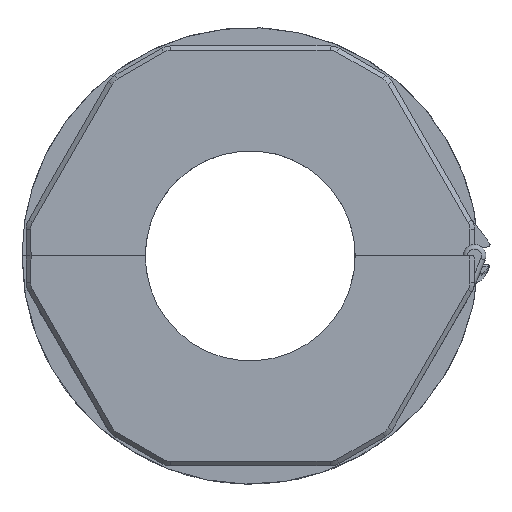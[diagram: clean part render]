
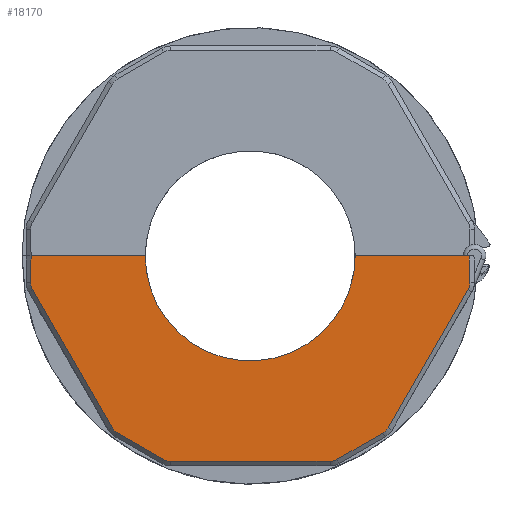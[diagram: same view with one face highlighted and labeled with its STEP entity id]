
A CAD part, left-side view. The second image highlights one B-rep face of the part: STEP entity #18170.
In plain terms, the highlighted planar face has unit normal (-1, 0, -0.009) as drawn and (1, -0.009, 0) by its records, which use the part's own axes.
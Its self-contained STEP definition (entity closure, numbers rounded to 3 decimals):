
#489=CIRCLE('',#19532,1.5);
#491=CIRCLE('',#19535,1.5);
#493=CIRCLE('',#19538,1.5);
#495=CIRCLE('',#19541,1.5);
#497=CIRCLE('',#19544,1.5);
#499=CIRCLE('',#19547,1.5);
#1055=PLANE('',#19548);
#2120=FACE_OUTER_BOUND('',#3142,.T.);
#3142=EDGE_LOOP('',(#16572,#16573,#16574,#16575,#16576,#16577,#16578,#16579,
#16580,#16581,#16582,#16583,#16584,#16585,#16586,#16587));
#5041=LINE('',#32210,#6854);
#5174=LINE('',#32550,#6987);
#5188=LINE('',#32617,#7001);
#5189=LINE('',#32620,#7002);
#5195=LINE('',#32650,#7008);
#5199=LINE('',#32677,#7012);
#5203=LINE('',#32704,#7016);
#5207=LINE('',#32731,#7020);
#5211=LINE('',#32758,#7024);
#6854=VECTOR('',#23355,10.);
#6987=VECTOR('',#23650,10.);
#7001=VECTOR('',#23706,10.);
#7002=VECTOR('',#23709,10.);
#7008=VECTOR('',#23721,10.);
#7012=VECTOR('',#23731,10.);
#7016=VECTOR('',#23741,10.);
#7020=VECTOR('',#23751,10.);
#7024=VECTOR('',#23761,10.);
#7393=ELLIPSE('',#19507,11.5,11.5);
#8885=VERTEX_POINT('',#32207);
#8886=VERTEX_POINT('',#32209);
#8995=VERTEX_POINT('',#32517);
#9009=VERTEX_POINT('',#32548);
#9029=VERTEX_POINT('',#32615);
#9030=VERTEX_POINT('',#32619);
#9032=VERTEX_POINT('',#32640);
#9034=VERTEX_POINT('',#32646);
#9036=VERTEX_POINT('',#32667);
#9038=VERTEX_POINT('',#32673);
#9040=VERTEX_POINT('',#32694);
#9042=VERTEX_POINT('',#32700);
#9044=VERTEX_POINT('',#32721);
#9046=VERTEX_POINT('',#32727);
#9048=VERTEX_POINT('',#32748);
#9050=VERTEX_POINT('',#32754);
#11370=EDGE_CURVE('',#8886,#8885,#5041,.T.);
#11525=EDGE_CURVE('',#8885,#8995,#7393,.T.);
#11541=EDGE_CURVE('',#8995,#9009,#5174,.T.);
#11570=EDGE_CURVE('',#9029,#9009,#5188,.T.);
#11571=EDGE_CURVE('',#8886,#9030,#5189,.T.);
#11576=EDGE_CURVE('',#9030,#9032,#489,.T.);
#11579=EDGE_CURVE('',#9032,#9034,#5195,.T.);
#11582=EDGE_CURVE('',#9034,#9036,#491,.T.);
#11585=EDGE_CURVE('',#9036,#9038,#5199,.T.);
#11588=EDGE_CURVE('',#9038,#9040,#493,.T.);
#11591=EDGE_CURVE('',#9040,#9042,#5203,.T.);
#11594=EDGE_CURVE('',#9042,#9044,#495,.T.);
#11597=EDGE_CURVE('',#9044,#9046,#5207,.T.);
#11600=EDGE_CURVE('',#9046,#9048,#497,.T.);
#11603=EDGE_CURVE('',#9048,#9050,#5211,.T.);
#11605=EDGE_CURVE('',#9050,#9029,#499,.T.);
#16572=ORIENTED_EDGE('',*,*,#11570,.F.);
#16573=ORIENTED_EDGE('',*,*,#11605,.F.);
#16574=ORIENTED_EDGE('',*,*,#11603,.F.);
#16575=ORIENTED_EDGE('',*,*,#11600,.F.);
#16576=ORIENTED_EDGE('',*,*,#11597,.F.);
#16577=ORIENTED_EDGE('',*,*,#11594,.F.);
#16578=ORIENTED_EDGE('',*,*,#11591,.F.);
#16579=ORIENTED_EDGE('',*,*,#11588,.F.);
#16580=ORIENTED_EDGE('',*,*,#11585,.F.);
#16581=ORIENTED_EDGE('',*,*,#11582,.F.);
#16582=ORIENTED_EDGE('',*,*,#11579,.F.);
#16583=ORIENTED_EDGE('',*,*,#11576,.F.);
#16584=ORIENTED_EDGE('',*,*,#11571,.F.);
#16585=ORIENTED_EDGE('',*,*,#11370,.T.);
#16586=ORIENTED_EDGE('',*,*,#11525,.T.);
#16587=ORIENTED_EDGE('',*,*,#11541,.T.);
#18170=ADVANCED_FACE('',(#2120),#1055,.T.);
#19507=AXIS2_PLACEMENT_3D('',#32519,#23631,#23632);
#19532=AXIS2_PLACEMENT_3D('',#32644,#23715,#23716);
#19535=AXIS2_PLACEMENT_3D('',#32671,#23725,#23726);
#19538=AXIS2_PLACEMENT_3D('',#32698,#23735,#23736);
#19541=AXIS2_PLACEMENT_3D('',#32725,#23745,#23746);
#19544=AXIS2_PLACEMENT_3D('',#32752,#23755,#23756);
#19547=AXIS2_PLACEMENT_3D('',#32776,#23764,#23765);
#19548=AXIS2_PLACEMENT_3D('',#32777,#23766,#23767);
#23355=DIRECTION('',(0.,0.,1.));
#23631=DIRECTION('center_axis',(-1.,0.009,
0.));
#23632=DIRECTION('ref_axis',(-0.009,-1.,0.));
#23650=DIRECTION('',(0.,0.,1.));
#23706=DIRECTION('',(0.009,1.,-0.017));
#23709=DIRECTION('',(-0.009,-1.,-0.017));
#23715=DIRECTION('center_axis',(-1.,0.009,
0.));
#23716=DIRECTION('ref_axis',(-0.004,-0.5,-0.866));
#23721=DIRECTION('',(-0.008,-0.866,0.5));
#23725=DIRECTION('center_axis',(-1.,0.009,
0.));
#23726=DIRECTION('ref_axis',(-0.008,-0.866,-0.5));
#23731=DIRECTION('',(-0.004,-0.5,0.866));
#23735=DIRECTION('center_axis',(-1.,0.009,
0.));
#23736=DIRECTION('ref_axis',(-0.009,-1.,0.));
#23741=DIRECTION('',(0.,0.,1.));
#23745=DIRECTION('center_axis',(-1.,0.009,
0.));
#23746=DIRECTION('ref_axis',(-0.008,-0.866,0.5));
#23751=DIRECTION('',(0.004,0.5,0.866));
#23755=DIRECTION('center_axis',(-1.,0.009,
0.));
#23756=DIRECTION('ref_axis',(-0.004,-0.5,0.866));
#23761=DIRECTION('',(0.008,0.866,0.5));
#23764=DIRECTION('center_axis',(-1.,0.009,
0.));
#23765=DIRECTION('ref_axis',(0.,0.,1.));
#23766=DIRECTION('center_axis',(1.,-0.009,
0.));
#23767=DIRECTION('ref_axis',(0.,0.,
-1.));
#32207=CARTESIAN_POINT('',(20.,0.,-11.5));
#32209=CARTESIAN_POINT('',(20.,0.,-24.007));
#32210=CARTESIAN_POINT('',(20.,0.,23.64));
#32517=CARTESIAN_POINT('',(20.,0.,11.5));
#32519=CARTESIAN_POINT('Origin',(20.,0.,0.));
#32548=CARTESIAN_POINT('',(20.,0.,24.007));
#32550=CARTESIAN_POINT('',(20.,0.,23.64));
#32615=CARTESIAN_POINT('',(19.974,-2.933,24.058));
#32617=CARTESIAN_POINT('',(19.987,-1.437,24.032));
#32619=CARTESIAN_POINT('',(19.974,-2.933,-24.058));
#32620=CARTESIAN_POINT('',(20.003,0.383,-24.));
#32640=CARTESIAN_POINT('',(19.968,-3.683,-23.857));
#32644=CARTESIAN_POINT('Origin',(19.974,-2.933,-22.558));
#32646=CARTESIAN_POINT('',(19.836,-18.826,-15.114));
#32650=CARTESIAN_POINT('',(19.968,-3.683,-23.857));
#32667=CARTESIAN_POINT('',(19.831,-19.375,-14.565));
#32671=CARTESIAN_POINT('Origin',(19.842,-18.076,-13.815));
#32673=CARTESIAN_POINT('',(19.805,-22.303,-9.493));
#32677=CARTESIAN_POINT('',(19.831,-19.375,-14.565));
#32694=CARTESIAN_POINT('',(19.804,-22.504,-8.743));
#32698=CARTESIAN_POINT('Origin',(19.817,-21.004,-8.743));
#32700=CARTESIAN_POINT('',(19.804,-22.504,8.743));
#32704=CARTESIAN_POINT('',(19.804,-22.504,-8.743));
#32721=CARTESIAN_POINT('',(19.805,-22.303,9.493));
#32725=CARTESIAN_POINT('Origin',(19.817,-21.004,8.743));
#32727=CARTESIAN_POINT('',(19.831,-19.375,14.565));
#32731=CARTESIAN_POINT('',(19.805,-22.303,9.493));
#32748=CARTESIAN_POINT('',(19.836,-18.826,15.114));
#32752=CARTESIAN_POINT('Origin',(19.842,-18.076,13.815));
#32754=CARTESIAN_POINT('',(19.968,-3.683,23.857));
#32758=CARTESIAN_POINT('',(19.836,-18.826,15.114));
#32776=CARTESIAN_POINT('Origin',(19.974,-2.933,22.558));
#32777=CARTESIAN_POINT('Origin',(20.,0.,20.45));
